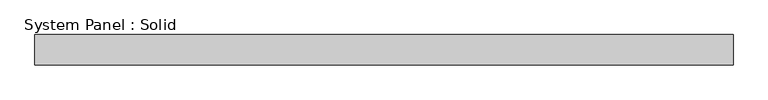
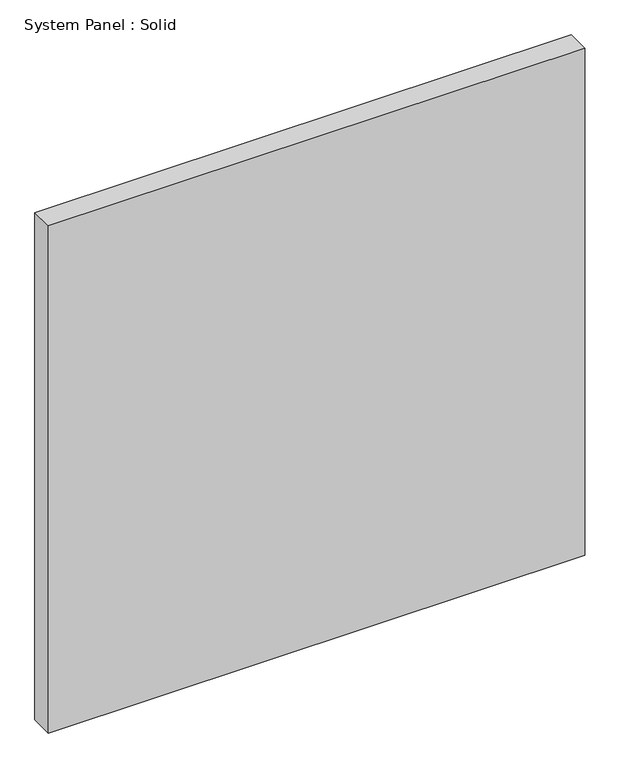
"""IFC4 building model written with IfcOpenShell, lengths in millimetres: plate geometry, System Panel : Solid."""

from ifc_helpers import new_model, si_unit, origin, origin_with_axes, place, context, project, spatial, polyline, outline, extrude, source, transform, mapped, element, save


def system_panel_solid_99f695d0(model_context):
    return source(origin(), model_context, "Body", "SweptSolid", [
        extrude(outline(polyline([(733.425, -19.05), (-733.425, -19.05), (-733.425, 44.45), (733.425, 44.45), (733.425, -19.05)])), origin_with_axes(), (0.0, 0.0, 1.0), 1466.85),
    ])


if __name__ == "__main__":
    model = new_model("IFC4")
    model_context = context("Model", 3, world=origin())
    ifc_project = project(units=[si_unit("LENGTHUNIT", "METRE", prefix="MILLI")], contexts=[model_context])
    site = spatial("IfcSite", under=ifc_project)
    building = spatial("IfcBuilding", under=site)
    placement = place(None, origin())
    system_panel_solid_shape = system_panel_solid_99f695d0(model_context)
    element("IfcPlate", 1, ObjectType="System Panel : Solid", at=placement, inside=building, context=model_context, shape_type="MappedRepresentation", body=[
        mapped(system_panel_solid_shape, transform((0.0, 0.0, 0.0), x_axis=(1.0, 0.0, 0.0), y_axis=(0.0, 1.0, 0.0), z_axis=(0.0, 0.0, 1.0))),
    ])
    save(model, "model.ifc")
